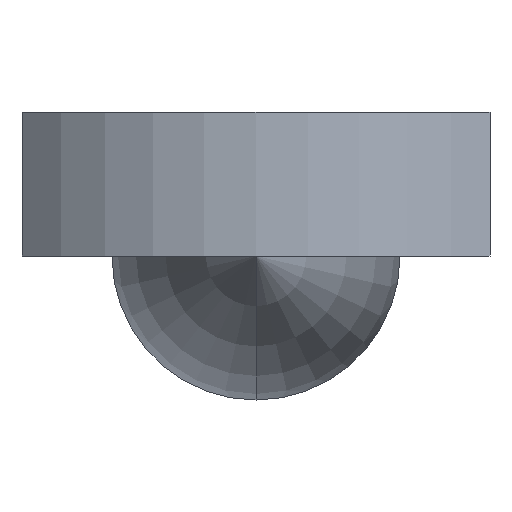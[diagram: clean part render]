
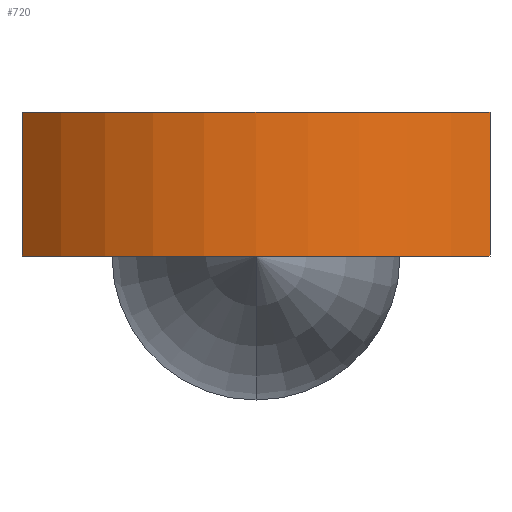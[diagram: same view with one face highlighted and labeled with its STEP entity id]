
A CAD part, front view. The second image highlights one B-rep face of the part: STEP entity #720.
In plain terms, the highlighted cylindrical face has radius 9.057 mm (diameter 18.114 mm), a partial arc.
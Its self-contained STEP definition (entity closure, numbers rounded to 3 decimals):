
#16 = DIRECTION ( 'NONE',  ( 0., 0., 1. ) ) ;
#22 = VERTEX_POINT ( 'NONE', #509 ) ;
#47 = CARTESIAN_POINT ( 'NONE',  ( -6.5, -34.25, 0. ) ) ;
#73 = CARTESIAN_POINT ( 'NONE',  ( 0., -27.943, 0. ) ) ;
#76 = VERTEX_POINT ( 'NONE', #734 ) ;
#88 = AXIS2_PLACEMENT_3D ( 'NONE', #394, #16, #459 ) ;
#95 = ORIENTED_EDGE ( 'NONE', *, *, #421, .T. ) ;
#97 = VECTOR ( 'NONE', #155, 1000. ) ;
#105 = ORIENTED_EDGE ( 'NONE', *, *, #576, .F. ) ;
#123 = FACE_OUTER_BOUND ( 'NONE', #667, .T. ) ;
#136 = DIRECTION ( 'NONE',  ( 0., 0., 1. ) ) ;
#155 = DIRECTION ( 'NONE',  ( 0., 0., -1. ) ) ;
#171 = ORIENTED_EDGE ( 'NONE', *, *, #757, .T. ) ;
#225 = CARTESIAN_POINT ( 'NONE',  ( -6.5, -34.25, 4. ) ) ;
#228 = AXIS2_PLACEMENT_3D ( 'NONE', #684, #676, #690 ) ;
#238 = LINE ( 'NONE', #794, #97 ) ;
#279 = VERTEX_POINT ( 'NONE', #225 ) ;
#347 = VECTOR ( 'NONE', #553, 1000. ) ;
#394 = CARTESIAN_POINT ( 'NONE',  ( 0., -27.943, 4. ) ) ;
#400 = CIRCLE ( 'NONE', #580, 9.057 ) ;
#414 = CYLINDRICAL_SURFACE ( 'NONE', #228, 9.057 ) ;
#415 = LINE ( 'NONE', #643, #347 ) ;
#421 = EDGE_CURVE ( 'NONE', #789, #22, #400, .T. ) ;
#459 = DIRECTION ( 'NONE',  ( 1., 0., 0. ) ) ;
#471 = EDGE_CURVE ( 'NONE', #279, #76, #780, .T. ) ;
#509 = CARTESIAN_POINT ( 'NONE',  ( 6.5, -34.25, 0. ) ) ;
#553 = DIRECTION ( 'NONE',  ( 0., 0., -1. ) ) ;
#576 = EDGE_CURVE ( 'NONE', #76, #22, #238, .T. ) ;
#580 = AXIS2_PLACEMENT_3D ( 'NONE', #73, #136, #587 ) ;
#581 = ORIENTED_EDGE ( 'NONE', *, *, #471, .F. ) ;
#587 = DIRECTION ( 'NONE',  ( 1., 0., 0. ) ) ;
#643 = CARTESIAN_POINT ( 'NONE',  ( -6.5, -34.25, 4. ) ) ;
#667 = EDGE_LOOP ( 'NONE', ( #95, #105, #581, #171 ) ) ;
#676 = DIRECTION ( 'NONE',  ( 0., 0., -1. ) ) ;
#684 = CARTESIAN_POINT ( 'NONE',  ( 0., -27.943, 4. ) ) ;
#690 = DIRECTION ( 'NONE',  ( -1., 0., 0. ) ) ;
#720 = ADVANCED_FACE ( 'NONE', ( #123 ), #414, .T. ) ;
#734 = CARTESIAN_POINT ( 'NONE',  ( 6.5, -34.25, 4. ) ) ;
#757 = EDGE_CURVE ( 'NONE', #279, #789, #415, .T. ) ;
#780 = CIRCLE ( 'NONE', #88, 9.057 ) ;
#789 = VERTEX_POINT ( 'NONE', #47 ) ;
#794 = CARTESIAN_POINT ( 'NONE',  ( 6.5, -34.25, 4. ) ) ;
